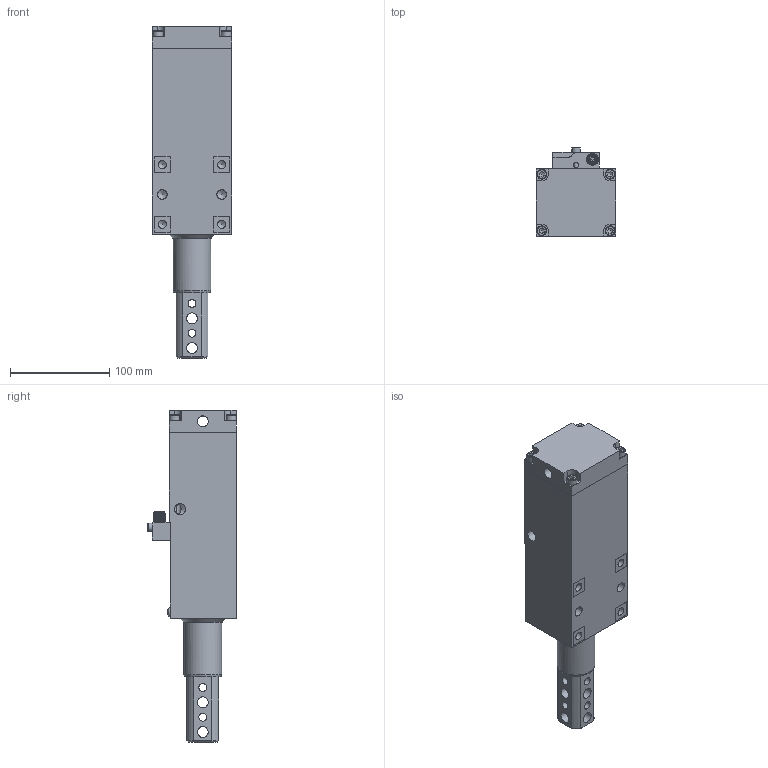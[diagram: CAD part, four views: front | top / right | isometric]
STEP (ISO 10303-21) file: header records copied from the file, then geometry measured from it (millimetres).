
FILE_DESCRIPTION(/* description */ (''),/* implementation_level */ '2;1');
FILE_NAME(/* name */ 'M:\cad\PRODUCT\LSA\LSA - 85\STEP\LSA-85\50 mm Stroke\LSA-85 50 mm Stroke - Extend.stp',/* time_stamp */ '2018-06-21T13:01:29-04:00',/* author */ ('Tyler'),/* organization */ (''),/* preprocessor_version */ 'ST-DEVELOPER v17',/* originating_system */ 'Autodesk Inventor 2019',/* authorisation */ '');
FILE_SCHEMA (('AUTOMOTIVE_DESIGN { 1 0 10303 214 3 1 1 }'));
Length unit declared in the file: inch
Products named in the file (10): LSA-85 w_ New Sensor Package - Stripped; SP012 - Body w_ New Sensor Package; SP002 _ Shaft; SP005; wiper; Turck Sensor; Sensor Cover Plate; ANSI B18.3.1M - M5x0.8 x 25; ANSI B18.3 - 10 - 24 x 1/4; ANSI B18.3.1M - M6x1 x 25
Assembly tree (12 placements, depth 2):
  LSA-85 w_ New Sensor Package - Stripped
    SP012 - Body w_ New Sensor Package
    SP002 _ Shaft
    SP005
    wiper
    Turck Sensor
    Sensor Cover Plate
    ANSI B18.3.1M - M5x0.8 x 25
    ANSI B18.3 - 10 - 24 x 1/4
    ANSI B18.3.1M - M6x1 x 25  x4
Bounding box: 80.01 x 89.81 x 335.08 mm (x, y, z)
Volume: 885468.9 mm3; surface area: 194025.7 mm2
Topology: 16 solids, 16 shells, 519 faces, 1452 edges, 987 vertices
Faces by surface type: plane 241, cylinder 190, cone 68, torus 19, bspline 1
Full cylindrical faces by diameter (mm): 1 x8, 2 x2, 3.264 x6, 3.302 x1, 4.14 x1, 4.826 x1, 4.928 x4, 5 x2, 5.3 x4, 6 x4, 6.35 x2, 6.5 x4, 8 x1, 8.014 x8, 8.3 x1, 8.382 x4, 8.5 x1, 9.169 x1, 9.4 x1, 9.652 x2, 9.9 x1, 10 x5, 10.02 x2, 10.16 x1, 10.312 x1, 10.5 x1, 10.998 x8, 11.112 x2, 11.455 x2, 11.76 x1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
Entity records: 16649 total; most frequent: CARTESIAN_POINT 3249, DIRECTION 2837, ORIENTED_EDGE 2620, EDGE_CURVE 1310, AXIS2_PLACEMENT_3D 1106, VERTEX_POINT 900, LINE 625, VECTOR 625
